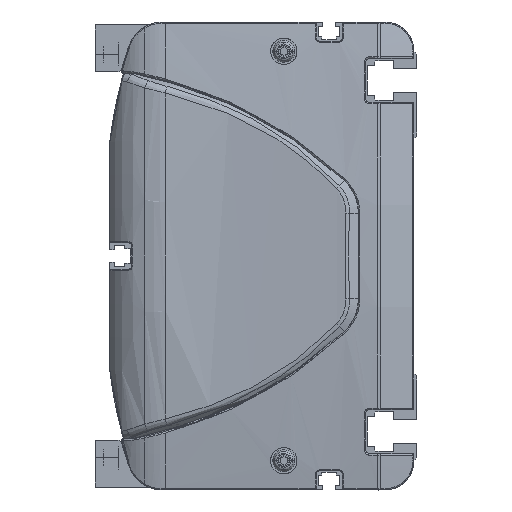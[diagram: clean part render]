
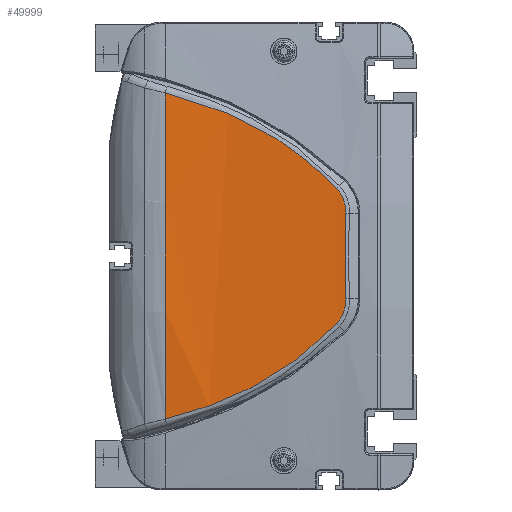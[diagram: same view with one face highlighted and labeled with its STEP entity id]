
A CAD part, left-side view. The second image highlights one B-rep face of the part: STEP entity #49999.
In plain terms, the highlighted cylindrical face has radius 600 mm (diameter 1200 mm), a partial arc.
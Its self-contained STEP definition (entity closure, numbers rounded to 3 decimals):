
#45028=CARTESIAN_POINT('',(-12.406,86.,
55.736));
#45029=CARTESIAN_POINT('',(-12.529,80.495,
54.41));
#45030=CARTESIAN_POINT('',(-12.828,69.636,
51.114));
#45031=CARTESIAN_POINT('',(-13.389,54.079,
44.179));
#45032=CARTESIAN_POINT('',(-14.01,39.709,
34.979));
#45033=CARTESIAN_POINT('',(-14.395,31.353,
27.243));
#45034=CARTESIAN_POINT('',(-14.555,27.451,
23.113));
#45036=CARTESIAN_POINT('',(-14.555,27.451,
23.113));
#45037=CARTESIAN_POINT('',(-14.641,25.336,
20.875));
#45038=CARTESIAN_POINT('',(-14.745,24.202,
17.745));
#45039=CARTESIAN_POINT('',(-14.821,24.351,
14.67));
#45041=CARTESIAN_POINT('',(-14.821,24.351,
14.67));
#45042=CARTESIAN_POINT('',(-14.9,24.51,
11.413));
#45043=CARTESIAN_POINT('',(-15.007,24.721,
4.895));
#45044=CARTESIAN_POINT('',(-15.007,24.721,
-4.895));
#45045=CARTESIAN_POINT('',(-14.9,24.51,
-11.413));
#45046=CARTESIAN_POINT('',(-14.821,24.351,
-14.67));
#45048=CARTESIAN_POINT('',(-14.821,24.351,
-14.67));
#45049=CARTESIAN_POINT('',(-14.745,24.202,
-17.745));
#45050=CARTESIAN_POINT('',(-14.641,25.337,
-20.876));
#45051=CARTESIAN_POINT('',(-14.555,27.451,
-23.113));
#45053=CARTESIAN_POINT('',(-14.555,27.451,
-23.113));
#45054=CARTESIAN_POINT('',(-14.395,31.353,
-27.243));
#45055=CARTESIAN_POINT('',(-14.01,39.709,
-34.979));
#45056=CARTESIAN_POINT('',(-13.389,54.079,
-44.179));
#45057=CARTESIAN_POINT('',(-12.828,69.636,
-51.114));
#45058=CARTESIAN_POINT('',(-12.529,80.495,
-54.41));
#45059=CARTESIAN_POINT('',(-12.406,86.,
-55.736));
#45061=CARTESIAN_POINT('',(585.,86.,0.));
#45062=DIRECTION('',(0.,1.,0.));
#45063=DIRECTION('',(-0.996,0.,-0.093));
#45064=AXIS2_PLACEMENT_3D('',#45061,#45062,#45063);
#45077=CARTESIAN_POINT('',(-12.406,86.,
55.736));
#45587=VERTEX_POINT('',#45077);
#45588=CARTESIAN_POINT('',(-12.406,86.,
-55.736));
#45589=VERTEX_POINT('',#45588);
#45641=VERTEX_POINT('',#45034);
#45642=VERTEX_POINT('',#45039);
#45643=VERTEX_POINT('',#45046);
#45644=VERTEX_POINT('',#45051);
#49981=CARTESIAN_POINT('',(585.,87.45,0.));
#49982=DIRECTION('',(0.,-1.,0.));
#49983=DIRECTION('',(0.,0.,-1.));
#49984=AXIS2_PLACEMENT_3D('',#49981,#49982,#49983);
#49985=CYLINDRICAL_SURFACE('',#49984,600.);
#49987=ORIENTED_EDGE('',*,*,#49986,.T.);
#49989=ORIENTED_EDGE('',*,*,#49988,.T.);
#49990=ORIENTED_EDGE('',*,*,#49971,.T.);
#49992=ORIENTED_EDGE('',*,*,#49991,.T.);
#49994=ORIENTED_EDGE('',*,*,#49993,.T.);
#49996=ORIENTED_EDGE('',*,*,#49995,.T.);
#49997=EDGE_LOOP('',(#49987,#49989,#49990,#49992,#49994,#49996));
#49998=FACE_OUTER_BOUND('',#49997,.F.);
#49999=ADVANCED_FACE('',(#49998),#49985,.T.);
#45035=B_SPLINE_CURVE_WITH_KNOTS('',3,(#45028,#45029,#45030,#45031,#45032,
#45033,#45034),.UNSPECIFIED.,.F.,.F.,(4,1,1,1,4),(0.,0.25,0.5,0.75,
1.),.UNSPECIFIED.);
#45040=B_SPLINE_CURVE_WITH_KNOTS('',3,(#45036,#45037,#45038,#45039),
.UNSPECIFIED.,.F.,.F.,(4,4),(0.,1.),.UNSPECIFIED.);
#45047=B_SPLINE_CURVE_WITH_KNOTS('',3,(#45041,#45042,#45043,#45044,#45045,
#45046),.UNSPECIFIED.,.F.,.F.,(4,1,1,4),(0.,0.333,
0.667,1.),.UNSPECIFIED.);
#45052=B_SPLINE_CURVE_WITH_KNOTS('',3,(#45048,#45049,#45050,#45051),
.UNSPECIFIED.,.F.,.F.,(4,4),(0.,1.),.UNSPECIFIED.);
#45060=B_SPLINE_CURVE_WITH_KNOTS('',3,(#45053,#45054,#45055,#45056,#45057,
#45058,#45059),.UNSPECIFIED.,.F.,.F.,(4,1,1,1,4),(0.,0.25,0.5,0.75,
1.),.UNSPECIFIED.);
#45065=CIRCLE('',#45064,600.);
#49971=EDGE_CURVE('',#45642,#45643,#45047,.T.);
#49986=EDGE_CURVE('',#45587,#45641,#45035,.T.);
#49988=EDGE_CURVE('',#45641,#45642,#45040,.T.);
#49991=EDGE_CURVE('',#45643,#45644,#45052,.T.);
#49993=EDGE_CURVE('',#45644,#45589,#45060,.T.);
#49995=EDGE_CURVE('',#45589,#45587,#45065,.T.);
